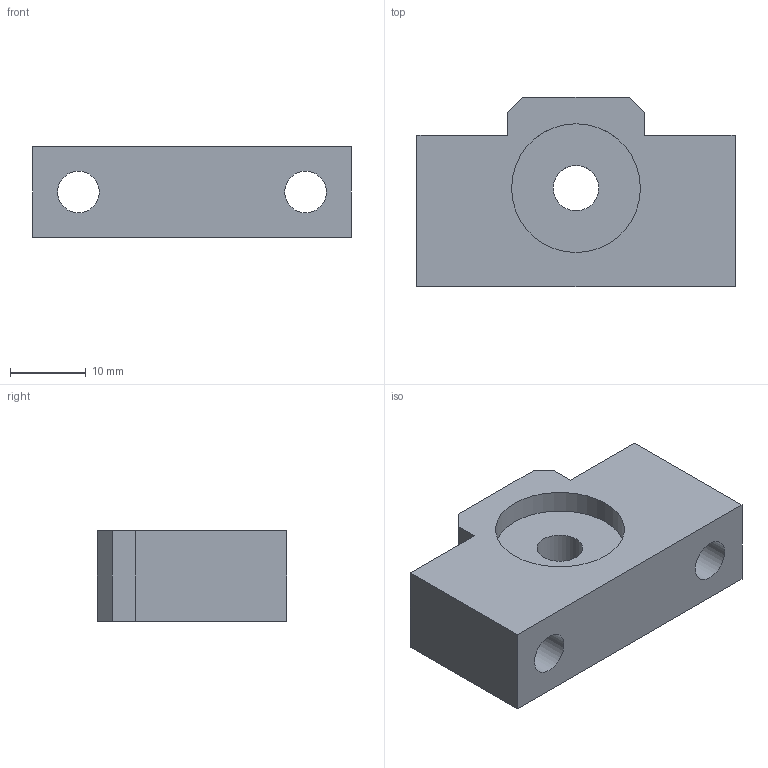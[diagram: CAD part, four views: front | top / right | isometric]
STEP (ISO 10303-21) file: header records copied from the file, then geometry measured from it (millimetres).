
FILE_DESCRIPTION(/* description */ (''),/* implementation_level */ '2;1');
FILE_NAME(/* name */ 'C:\Users\tenki620635\Desktop\官網\圖面\軸承座\3D\setp檔\EF06.stp',/* time_stamp */ '2020-11-20T18:07:41+08:00',/* author */ ('tenki620635'),/* organization */ (''),/* preprocessor_version */ 'ST-DEVELOPER v15.2',/* originating_system */ 'Autodesk Inventor 2014',/* authorisation */ '');
FILE_SCHEMA (('AUTOMOTIVE_DESIGN { 1 0 10303 214 3 1 1 }'));
Length unit declared in the file: millimetre
Products named in the file (1): EF06
Bounding box: 42 x 25 x 12 mm (x, y, z)
Volume: 7593.4 mm3; surface area: 4681.5 mm2
Topology: 1 solids, 1 shells, 23 faces, 51 edges, 34 vertices
Faces by surface type: plane 16, cylinder 7
Full cylindrical faces by diameter (mm): 5.5 x2, 6 x1, 9.5 x2, 17 x2
Entity records: 637 total; most frequent: DIRECTION 106, CARTESIAN_POINT 102, ORIENTED_EDGE 88, EDGE_CURVE 44, EDGE_LOOP 40, AXIS2_PLACEMENT_3D 38, VERTEX_POINT 34, LINE 30
